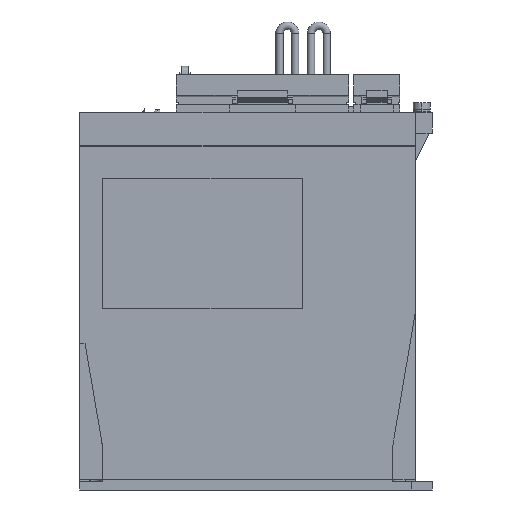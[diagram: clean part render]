
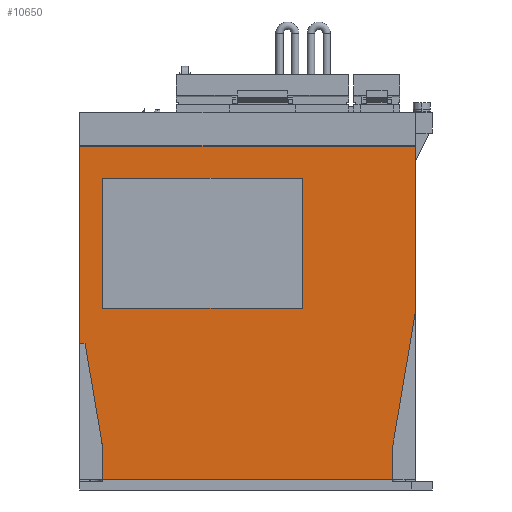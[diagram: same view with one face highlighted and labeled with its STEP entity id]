
A CAD part, left-side view. The second image highlights one B-rep face of the part: STEP entity #10650.
In plain terms, the highlighted planar face has unit normal (-1, 0, 0).
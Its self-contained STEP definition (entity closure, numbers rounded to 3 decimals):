
#8890 = VERTEX_POINT ( 'NONE', #33740 ) ;
#8892 = EDGE_CURVE ( 'NONE', #8918, #8890, #33739, .T. ) ;
#8918 = VERTEX_POINT ( 'NONE', #33756 ) ;
#10564 = EDGE_LOOP ( 'NONE', ( #10565, #10569, #10572, #10633 ) ) ;
#10565 = ORIENTED_EDGE ( 'NONE', *, *, #10566, .F. ) ;
#10566 = EDGE_CURVE ( 'NONE', #10567, #10568, #36578, .T. ) ;
#10567 = VERTEX_POINT ( 'NONE', #36574 ) ;
#10568 = VERTEX_POINT ( 'NONE', #36573 ) ;
#10569 = ORIENTED_EDGE ( 'NONE', *, *, #10570, .F. ) ;
#10570 = EDGE_CURVE ( 'NONE', #10571, #10567, #36572, .T. ) ;
#10571 = VERTEX_POINT ( 'NONE', #36568 ) ;
#10572 = ORIENTED_EDGE ( 'NONE', *, *, #10573, .F. ) ;
#10573 = EDGE_CURVE ( 'NONE', #10574, #10571, #36567, .T. ) ;
#10574 = VERTEX_POINT ( 'NONE', #36563 ) ;
#10576 = EDGE_CURVE ( 'NONE', #10604, #10577, #36562, .T. ) ;
#10577 = VERTEX_POINT ( 'NONE', #36622 ) ;
#10604 = VERTEX_POINT ( 'NONE', #36636 ) ;
#10619 = EDGE_CURVE ( 'NONE', #10645, #10620, #36676, .T. ) ;
#10620 = VERTEX_POINT ( 'NONE', #36672 ) ;
#10621 = ORIENTED_EDGE ( 'NONE', *, *, #10622, .F. ) ;
#10622 = EDGE_CURVE ( 'NONE', #10623, #10620, #36671, .T. ) ;
#10623 = VERTEX_POINT ( 'NONE', #36667 ) ;
#10624 = ORIENTED_EDGE ( 'NONE', *, *, #10625, .T. ) ;
#10625 = EDGE_CURVE ( 'NONE', #10623, #10577, #36666, .T. ) ;
#10626 = ORIENTED_EDGE ( 'NONE', *, *, #10576, .F. ) ;
#10627 = ORIENTED_EDGE ( 'NONE', *, *, #10628, .F. ) ;
#10628 = EDGE_CURVE ( 'NONE', #8918, #10604, #36662, .T. ) ;
#10633 = ORIENTED_EDGE ( 'NONE', *, *, #10634, .F. ) ;
#10634 = EDGE_CURVE ( 'NONE', #10568, #10574, #36708, .T. ) ;
#10635 = EDGE_LOOP ( 'NONE', ( #10636, #10637, #10640, #10643, #10646, #10621, #10624, #10626, #10627 ) ) ;
#10636 = ORIENTED_EDGE ( 'NONE', *, *, #8892, .T. ) ;
#10637 = ORIENTED_EDGE ( 'NONE', *, *, #10638, .T. ) ;
#10638 = EDGE_CURVE ( 'NONE', #8890, #10639, #36704, .T. ) ;
#10639 = VERTEX_POINT ( 'NONE', #36700 ) ;
#10640 = ORIENTED_EDGE ( 'NONE', *, *, #10641, .F. ) ;
#10641 = EDGE_CURVE ( 'NONE', #10642, #10639, #36699, .T. ) ;
#10642 = VERTEX_POINT ( 'NONE', #36695 ) ;
#10643 = ORIENTED_EDGE ( 'NONE', *, *, #10644, .T. ) ;
#10644 = EDGE_CURVE ( 'NONE', #10642, #10645, #36694, .T. ) ;
#10645 = VERTEX_POINT ( 'NONE', #36690 ) ;
#10646 = ORIENTED_EDGE ( 'NONE', *, *, #10619, .T. ) ;
#10650 = ADVANCED_FACE ( 'NONE', ( #36747, #36746 ), #36745, .F. ) ;
#33736 = DIRECTION ( 'NONE',  ( 0., 0., -1. ) ) ;
#33737 = VECTOR ( 'NONE', #33736, 1000. ) ;
#33738 = CARTESIAN_POINT ( 'NONE',  ( -6., 5., 338.642 ) ) ;
#33739 = LINE ( 'NONE', #33738, #33737 ) ;
#33740 = CARTESIAN_POINT ( 'NONE',  ( -6., 5., 70. ) ) ;
#33756 = CARTESIAN_POINT ( 'NONE',  ( -6., 5., 163.8 ) ) ;
#36561 = CARTESIAN_POINT ( 'NONE',  ( -6., -155., 338.642 ) ) ;
#36562 = LINE ( 'NONE', #36561, #36624 ) ;
#36563 = CARTESIAN_POINT ( 'NONE',  ( -6., -6., 148.6 ) ) ;
#36564 = DIRECTION ( 'NONE',  ( 0., 0., -1. ) ) ;
#36565 = VECTOR ( 'NONE', #36564, 1000. ) ;
#36566 = CARTESIAN_POINT ( 'NONE',  ( -6., -6., 86.6 ) ) ;
#36567 = LINE ( 'NONE', #36566, #36565 ) ;
#36568 = CARTESIAN_POINT ( 'NONE',  ( -6., -6., 86.6 ) ) ;
#36569 = DIRECTION ( 'NONE',  ( 0., -1., 0. ) ) ;
#36570 = VECTOR ( 'NONE', #36569, 1000. ) ;
#36571 = CARTESIAN_POINT ( 'NONE',  ( -6., -6., 86.6 ) ) ;
#36572 = LINE ( 'NONE', #36571, #36570 ) ;
#36573 = CARTESIAN_POINT ( 'NONE',  ( -6., -101., 148.6 ) ) ;
#36574 = CARTESIAN_POINT ( 'NONE',  ( -6., -101., 86.6 ) ) ;
#36575 = DIRECTION ( 'NONE',  ( 0., 0., 1. ) ) ;
#36576 = VECTOR ( 'NONE', #36575, 1000. ) ;
#36577 = CARTESIAN_POINT ( 'NONE',  ( -6., -101., 86.6 ) ) ;
#36578 = LINE ( 'NONE', #36577, #36576 ) ;
#36622 = CARTESIAN_POINT ( 'NONE',  ( -6., -155., 85. ) ) ;
#36623 = DIRECTION ( 'NONE',  ( 0., 0., -1. ) ) ;
#36624 = VECTOR ( 'NONE', #36623, 1000. ) ;
#36636 = CARTESIAN_POINT ( 'NONE',  ( -6., -155., 163.8 ) ) ;
#36659 = DIRECTION ( 'NONE',  ( 0., -1., 0. ) ) ;
#36660 = VECTOR ( 'NONE', #36659, 1000. ) ;
#36661 = CARTESIAN_POINT ( 'NONE',  ( -6., 5., 163.8 ) ) ;
#36662 = LINE ( 'NONE', #36661, #36660 ) ;
#36663 = DIRECTION ( 'NONE',  ( 0., -0.167, 0.986 ) ) ;
#36664 = VECTOR ( 'NONE', #36663, 1000. ) ;
#36665 = CARTESIAN_POINT ( 'NONE',  ( -6., -144., 20. ) ) ;
#36666 = LINE ( 'NONE', #36665, #36664 ) ;
#36667 = CARTESIAN_POINT ( 'NONE',  ( -6., -144., 20. ) ) ;
#36668 = DIRECTION ( 'NONE',  ( 0., 0., -1. ) ) ;
#36669 = VECTOR ( 'NONE', #36668, 1000. ) ;
#36670 = CARTESIAN_POINT ( 'NONE',  ( -6., -144., 20. ) ) ;
#36671 = LINE ( 'NONE', #36670, #36669 ) ;
#36672 = CARTESIAN_POINT ( 'NONE',  ( -6., -144., 5.2 ) ) ;
#36673 = DIRECTION ( 'NONE',  ( 0., -1., 0. ) ) ;
#36674 = VECTOR ( 'NONE', #36673, 1000. ) ;
#36675 = CARTESIAN_POINT ( 'NONE',  ( -6., -6., 5.2 ) ) ;
#36676 = LINE ( 'NONE', #36675, #36674 ) ;
#36690 = CARTESIAN_POINT ( 'NONE',  ( -6., -6., 5.2 ) ) ;
#36691 = DIRECTION ( 'NONE',  ( 0., 0., -1. ) ) ;
#36692 = VECTOR ( 'NONE', #36691, 1000. ) ;
#36693 = CARTESIAN_POINT ( 'NONE',  ( -6., -6., 20. ) ) ;
#36694 = LINE ( 'NONE', #36693, #36692 ) ;
#36695 = CARTESIAN_POINT ( 'NONE',  ( -6., -6., 20. ) ) ;
#36696 = DIRECTION ( 'NONE',  ( 0., 0.167, 0.986 ) ) ;
#36697 = VECTOR ( 'NONE', #36696, 1000. ) ;
#36698 = CARTESIAN_POINT ( 'NONE',  ( -6., -6., 20. ) ) ;
#36699 = LINE ( 'NONE', #36698, #36697 ) ;
#36700 = CARTESIAN_POINT ( 'NONE',  ( -6., 2.462, 70. ) ) ;
#36701 = DIRECTION ( 'NONE',  ( 0., -1., 0. ) ) ;
#36702 = VECTOR ( 'NONE', #36701, 1000. ) ;
#36703 = CARTESIAN_POINT ( 'NONE',  ( -6., 5., 70. ) ) ;
#36704 = LINE ( 'NONE', #36703, #36702 ) ;
#36705 = DIRECTION ( 'NONE',  ( 0., 1., 0. ) ) ;
#36706 = VECTOR ( 'NONE', #36705, 1000. ) ;
#36707 = CARTESIAN_POINT ( 'NONE',  ( -6., -6., 148.6 ) ) ;
#36708 = LINE ( 'NONE', #36707, #36706 ) ;
#36741 = DIRECTION ( 'NONE',  ( 0., 1., 0. ) ) ;
#36742 = DIRECTION ( 'NONE',  ( 1., 0., 0. ) ) ;
#36743 = CARTESIAN_POINT ( 'NONE',  ( -6., 5., 338.642 ) ) ;
#36744 = AXIS2_PLACEMENT_3D ( 'NONE', #36743, #36742, #36741 ) ;
#36745 = PLANE ( 'NONE',  #36744 ) ;
#36746 = FACE_OUTER_BOUND ( 'NONE', #10635, .T. ) ;
#36747 = FACE_BOUND ( 'NONE', #10564, .T. ) ;
